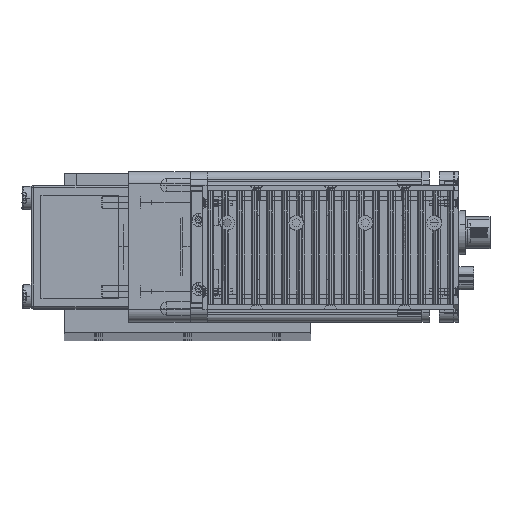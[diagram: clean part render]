
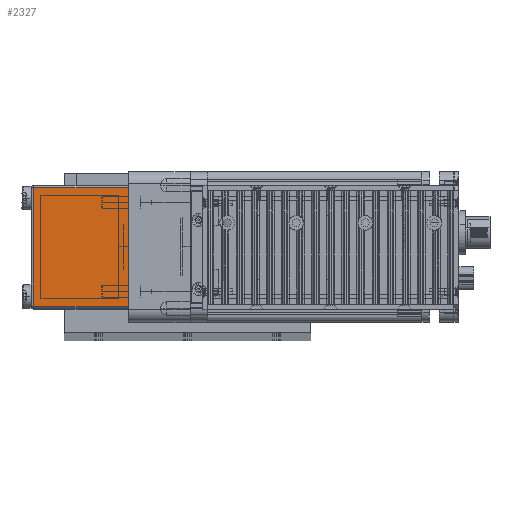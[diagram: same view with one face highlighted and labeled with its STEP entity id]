
A CAD part, top view. The second image highlights one B-rep face of the part: STEP entity #2327.
In plain terms, the highlighted planar face has unit normal (0, 0, 1) as drawn and (1, 0, 0) by its records, which use the part's own axes.
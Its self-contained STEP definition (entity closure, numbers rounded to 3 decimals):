
#2004 = VERTEX_POINT ( 'NONE', #22686 ) ;
#2033 = VERTEX_POINT ( 'NONE', #22784 ) ;
#2045 = VERTEX_POINT ( 'NONE', #22858 ) ;
#2065 = VERTEX_POINT ( 'NONE', #22925 ) ;
#2070 = EDGE_CURVE ( 'NONE', #2033, #2004, #22992, .T. ) ;
#2083 = EDGE_CURVE ( 'NONE', #2045, #2065, #23056, .T. ) ;
#2235 = EDGE_CURVE ( 'NONE', #2065, #2033, #23616, .T. ) ;
#2245 = ORIENTED_EDGE ( 'NONE', *, *, #2070, .F. ) ;
#2265 = EDGE_CURVE ( 'NONE', #2045, #2004, #23882, .T. ) ;
#2291 = ORIENTED_EDGE ( 'NONE', *, *, #2083, .F. ) ;
#2297 = ORIENTED_EDGE ( 'NONE', *, *, #2265, .T. ) ;
#2320 = EDGE_LOOP ( 'NONE', ( #2291, #2297, #2245, #2323 ) ) ;
#2323 = ORIENTED_EDGE ( 'NONE', *, *, #2235, .F. ) ;
#2327 = ADVANCED_FACE ( 'NONE', ( #23961 ), #24068, .F. ) ;
#22686 = CARTESIAN_POINT ( 'NONE',  ( 62., 24., 0. ) ) ;
#22784 = CARTESIAN_POINT ( 'NONE',  ( 62., 24., 38.5 ) ) ;
#22858 = CARTESIAN_POINT ( 'NONE',  ( 62., -24., 0. ) ) ;
#22925 = CARTESIAN_POINT ( 'NONE',  ( 62., -24., 38.5 ) ) ;
#22988 = DIRECTION ( 'NONE',  ( 0., 0., -1. ) ) ;
#22989 = VECTOR ( 'NONE', #22988, 1000. ) ;
#22990 = CARTESIAN_POINT ( 'NONE',  ( 62., 24., 39.5 ) ) ;
#22992 = LINE ( 'NONE', #22990, #22989 ) ;
#23052 = DIRECTION ( 'NONE',  ( 0., 0., 1. ) ) ;
#23054 = VECTOR ( 'NONE', #23052, 1000. ) ;
#23055 = CARTESIAN_POINT ( 'NONE',  ( 62., -24., 39.5 ) ) ;
#23056 = LINE ( 'NONE', #23055, #23054 ) ;
#23609 = DIRECTION ( 'NONE',  ( 0., 1., 0. ) ) ;
#23611 = VECTOR ( 'NONE', #23609, 1000. ) ;
#23615 = CARTESIAN_POINT ( 'NONE',  ( 62., -25., 38.5 ) ) ;
#23616 = LINE ( 'NONE', #23615, #23611 ) ;
#23872 = DIRECTION ( 'NONE',  ( 0., 1., 0. ) ) ;
#23873 = VECTOR ( 'NONE', #23872, 1000. ) ;
#23880 = CARTESIAN_POINT ( 'NONE',  ( 62., -25., 0. ) ) ;
#23882 = LINE ( 'NONE', #23880, #23873 ) ;
#23961 = FACE_OUTER_BOUND ( 'NONE', #2320, .T. ) ;
#23979 = AXIS2_PLACEMENT_3D ( 'NONE', #24072, #24070, #24050 ) ;
#24050 = DIRECTION ( 'NONE',  ( 0., -1., 0. ) ) ;
#24068 = PLANE ( 'NONE',  #23979 ) ;
#24070 = DIRECTION ( 'NONE',  ( -1., 0., 0. ) ) ;
#24072 = CARTESIAN_POINT ( 'NONE',  ( 62., 25., 39.5 ) ) ;
